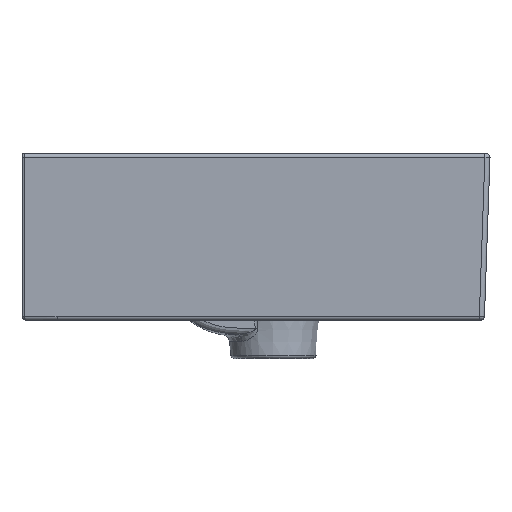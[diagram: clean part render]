
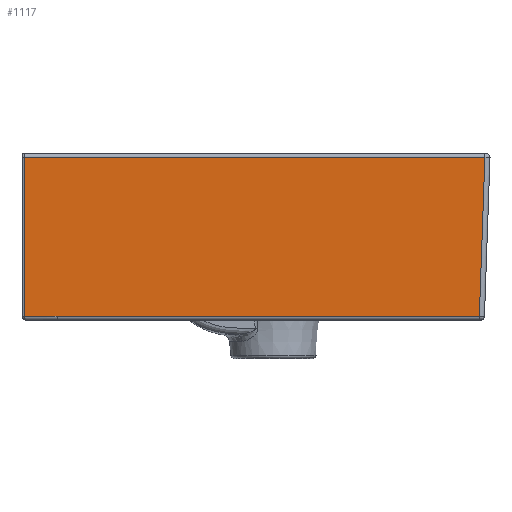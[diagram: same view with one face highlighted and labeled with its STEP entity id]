
A CAD part, left-side view. The second image highlights one B-rep face of the part: STEP entity #1117.
In plain terms, the highlighted planar face has unit normal (-1, 0, -0.026).
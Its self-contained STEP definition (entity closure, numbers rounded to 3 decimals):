
#249=ELLIPSE('',#5886,1.,1.);
#718=PLANE('',#5887);
#822=LINE('',#17202,#986);
#823=LINE('',#17205,#987);
#824=LINE('',#17207,#988);
#825=LINE('',#17209,#989);
#826=LINE('',#17211,#990);
#986=VECTOR('',#6500,1.);
#987=VECTOR('',#6501,1.);
#988=VECTOR('',#6502,1.);
#989=VECTOR('',#6503,1.);
#990=VECTOR('',#6504,1.);
#1117=ADVANCED_FACE('',(#1530),#718,.F.);
#1530=FACE_OUTER_BOUND('',#1906,.T.);
#1906=EDGE_LOOP('',(#2564,#2565,#2566,#2567,#2568,#2569));
#2564=ORIENTED_EDGE('',*,*,#4805,.T.);
#2565=ORIENTED_EDGE('',*,*,#4806,.T.);
#2566=ORIENTED_EDGE('',*,*,#4807,.T.);
#2567=ORIENTED_EDGE('',*,*,#4808,.T.);
#2568=ORIENTED_EDGE('',*,*,#4809,.T.);
#2569=ORIENTED_EDGE('',*,*,#4810,.T.);
#4260=VERTEX_POINT('',#17203);
#4261=VERTEX_POINT('',#17204);
#4262=VERTEX_POINT('',#17206);
#4263=VERTEX_POINT('',#17208);
#4264=VERTEX_POINT('',#17210);
#4265=VERTEX_POINT('',#17212);
#4805=EDGE_CURVE('',#4260,#4261,#822,.T.);
#4806=EDGE_CURVE('',#4261,#4262,#823,.T.);
#4807=EDGE_CURVE('',#4262,#4263,#824,.T.);
#4808=EDGE_CURVE('',#4263,#4264,#825,.T.);
#4809=EDGE_CURVE('',#4264,#4265,#826,.T.);
#4810=EDGE_CURVE('',#4265,#4260,#249,.T.);
#5886=AXIS2_PLACEMENT_3D('',#17213,#6505,#6506);
#5887=AXIS2_PLACEMENT_3D('',#17214,#6507,#6508);
#6500=DIRECTION('',(0.,-1.,0.));
#6501=DIRECTION('',(0.,-1.,0.));
#6502=DIRECTION('',(-0.026,-0.035,0.999));
#6503=DIRECTION('',(0.,1.,0.));
#6504=DIRECTION('',(0.026,0.,-1.));
#6505=DIRECTION('',(-1.,0.,-0.026));
#6506=DIRECTION('',(-0.026,0.,1.));
#6507=DIRECTION('',(1.,0.,0.026));
#6508=DIRECTION('',(0.026,0.,-1.));
#17202=CARTESIAN_POINT('',(-296.672,-27.3,-127.079));
#17203=CARTESIAN_POINT('',(-296.672,-2.,-127.079));
#17204=CARTESIAN_POINT('',(-296.672,-27.3,-127.079));
#17205=CARTESIAN_POINT('',(-296.672,-182.5,-127.079));
#17206=CARTESIAN_POINT('',(-296.672,-356.564,-127.079));
#17207=CARTESIAN_POINT('',(-299.837,-360.784,-6.222));
#17208=CARTESIAN_POINT('',(-299.919,-360.894,-3.079));
#17209=CARTESIAN_POINT('',(-299.919,-182.5,-3.079));
#17210=CARTESIAN_POINT('',(-299.919,-2.,-3.079));
#17211=CARTESIAN_POINT('',(-300.,-2.,0.));
#17212=CARTESIAN_POINT('',(-296.673,-2.,-127.052));
#17213=CARTESIAN_POINT('',(-296.673,-3.,-127.052));
#17214=CARTESIAN_POINT('',(-300.,-182.5,0.));
